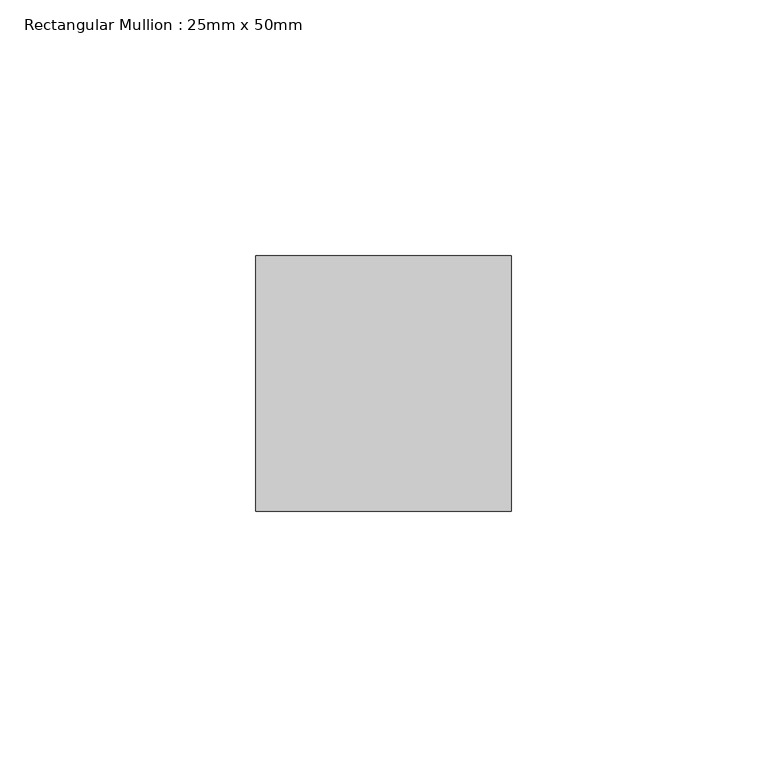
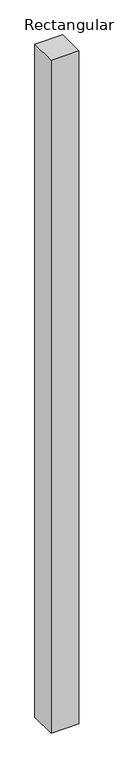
"""IFC4 building model written with IfcOpenShell, lengths in millimetres: member geometry, Rectangular Mullion : 25mm x 50mm."""

from ifc_helpers import new_model, si_unit, frame, origin, place, context, project, spatial, polyline, outline, extrude, source, transform, mapped, element, save


def rectangular_mullion_25mm_x_50mm_f5c7b4c3(model_context):
    return source(origin(), model_context, "Body", "SweptSolid", [
        extrude(outline(polyline([(25.0, 25.0), (25.0, -25.0), (-25.0, -25.0), (-25.0, 25.0), (25.0, 25.0)])), frame((0.0, 0.0, -1274.6505764), z_axis=(0.0, 0.0, 1.0), x_axis=(1.0, 0.0, 0.0)), (0.0, 0.0, 1.0), 1274.6505764),
    ])


if __name__ == "__main__":
    model = new_model("IFC4")
    model_context = context("Model", 3, world=origin())
    ifc_project = project(units=[si_unit("LENGTHUNIT", "METRE", prefix="MILLI")], contexts=[model_context])
    site = spatial("IfcSite", under=ifc_project)
    building = spatial("IfcBuilding", under=site)
    placement = place(None, origin())
    rectangular_mullion_25mm_x_50mm_shape = rectangular_mullion_25mm_x_50mm_f5c7b4c3(model_context)
    element("IfcMember", 1, ObjectType="Rectangular Mullion : 25mm x 50mm", at=placement, inside=building, context=model_context, shape_type="MappedRepresentation", body=[
        mapped(rectangular_mullion_25mm_x_50mm_shape, transform((0.0, 0.0, 0.0), x_axis=(1.0, 0.0, 0.0), y_axis=(0.0, 1.0, 0.0), z_axis=(0.0, 0.0, 1.0))),
    ])
    save(model, "model.ifc")
